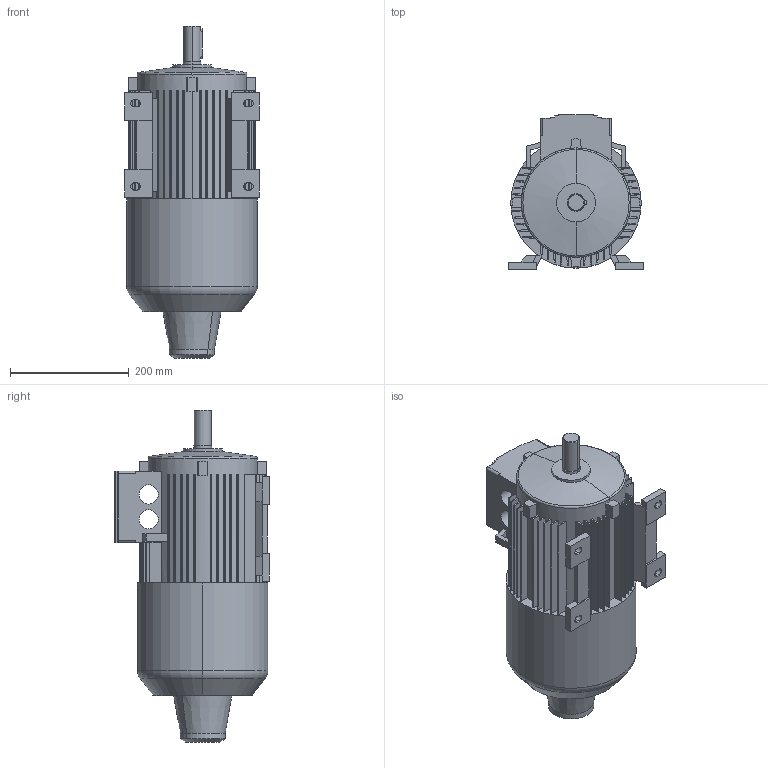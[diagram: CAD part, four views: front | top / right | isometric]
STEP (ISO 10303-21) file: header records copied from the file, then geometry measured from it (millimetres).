
FILE_DESCRIPTION((''),'2;1');
FILE_NAME('1LA7113-2AA10-Z-H62_PRT','2002-04-12T',('martin könig'),(''),'PRO/ENGINEER BY PARAMETRIC TECHNOLOGY CORPORATION, 2002030','PRO/ENGINEER BY PARAMETRIC TECHNOLOGY CORPORATION, 2002030','');
FILE_SCHEMA(('CONFIG_CONTROL_DESIGN'));
Length unit declared in the file: millimetre
Products named in the file (1): 1LA7113-2AA10-Z-H62_PRT
Bounding box: 226 x 260 x 558.5 mm (x, y, z)
Volume: 14291600.8 mm3; surface area: 632713.3 mm2
Topology: 1 solids, 1 shells, 320 faces, 907 edges, 596 vertices
Faces by surface type: plane 221, cylinder 83, cone 10, torus 6
Entity records: 10482 total; most frequent: CARTESIAN_POINT 1854, ORIENTED_EDGE 1814, DIRECTION 1807, EDGE_CURVE 907, VECTOR 643, LINE 643, VERTEX_POINT 596, AXIS2_PLACEMENT_3D 582
